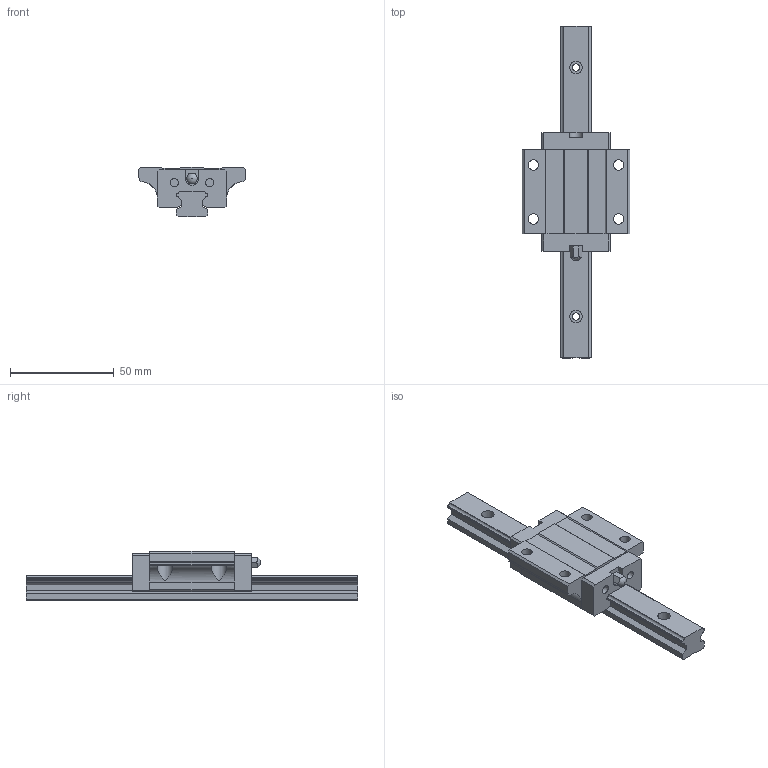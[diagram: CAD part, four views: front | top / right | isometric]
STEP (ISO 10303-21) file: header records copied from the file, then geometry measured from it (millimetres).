
FILE_DESCRIPTION(/* description */ (''),/* implementation_level */ '2;1');
FILE_NAME(/* name */ 'MSB15E',/* time_stamp */ '2004-05-24T10:53:24+08:00',/* author */ (''),/* organization */ (''),/* preprocessor_version */ 'ST-DEVELOPER v8',/* originating_system */ '',/* authorisation */ '');
FILE_SCHEMA (('CONFIG_CONTROL_DESIGN'));
Length unit declared in the file: millimetre
Products named in the file (1): zirc170C000r
Bounding box: 52 x 160 x 24 mm (x, y, z)
Volume: 59986.5 mm3; surface area: 20788.1 mm2
Topology: 3 solids, 3 shells, 151 faces, 415 edges, 277 vertices
Faces by surface type: plane 117, cylinder 32, sphere 2
Full cylindrical faces by diameter (mm): 3.5 x3, 4 x6, 5 x4, 6 x3
Entity records: 4876 total; most frequent: CARTESIAN_POINT 922, ORIENTED_EDGE 792, DIRECTION 780, EDGE_CURVE 396, LINE 308, VECTOR 308, VERTEX_POINT 274, AXIS2_PLACEMENT_3D 236
